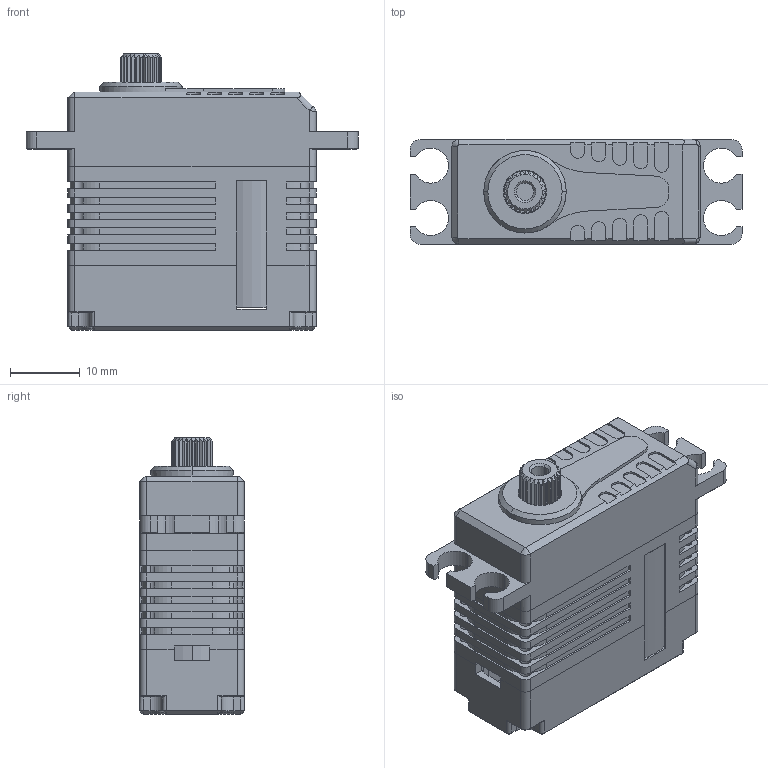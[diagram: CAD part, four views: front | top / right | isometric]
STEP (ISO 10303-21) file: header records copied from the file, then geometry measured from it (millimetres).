
FILE_DESCRIPTION (( 'STEP AP214' ), '1' );
FILE_NAME ('X15-1809_DM_20220429.STEP', '2022-04-29T08:59:28', ( '微软用户' ), ( '微软中国' ), 'SwSTEP 2.0', 'SolidWorks 2016', '' );
FILE_SCHEMA (( 'AUTOMOTIVE_DESIGN' ));
Length unit declared in the file: millimetre
Products named in the file (1): X15-1809_DM_20220429
Bounding box: 47.5 x 15 x 39.59 mm (x, y, z)
Surface area: 8457.1 mm2 (no closed solid volume)
Topology: 0 solids, 10 shells, 473 faces, 1539 edges, 1027 vertices
Faces by surface type: plane 267, cylinder 176, cone 28, bspline 2
Entity records: 22228 total; most frequent: CARTESIAN_POINT 3276, DIRECTION 2909, ORIENTED_EDGE 2882, EDGE_CURVE 1531, VERTEX_POINT 1027, AXIS2_PLACEMENT_3D 974, LINE 961, VECTOR 961
